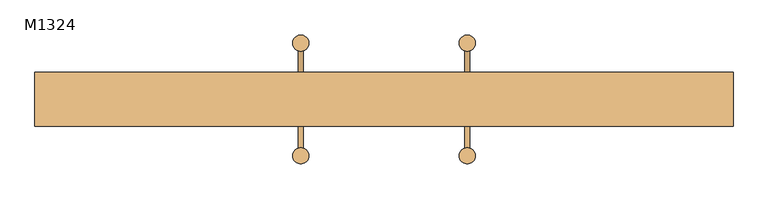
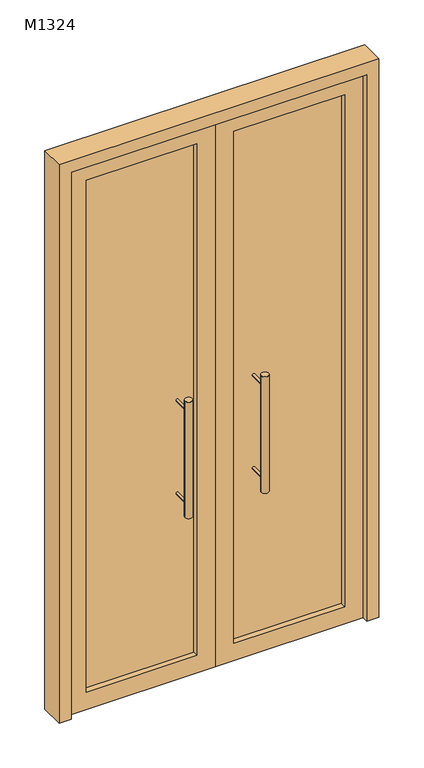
"""IFC4 building model written with IfcOpenShell, lengths in millimetres: door geometry, 双面嵌板玻璃门 : M1324."""

from ifc_helpers import new_model, si_unit, point, frame, frame_2d, origin, place, context, project, spatial, polyline, circle_curve, trimmed, segment, composite_curve, outline, extrude, source, transform, mapped, element, save


def m1324_f99653ee(model_context):
    return source(origin(), model_context, "Body", "SweptSolid", [
        extrude(outline(composite_curve([segment(trimmed(circle_curve(frame_2d((155.0, 105.0)), 15.0), [point((140.0, 105.0))], [point((170.0, 105.0))], False, "CARTESIAN"), True, "CONTINUOUS"), segment(trimmed(circle_curve(frame_2d((155.0, 105.0)), 15.0), [point((170.0, 105.0))], [point((140.0, 105.0))], False, "CARTESIAN"), True, "CONTINUOUS")], self_intersect=False)), frame((0.0, 0.0, 750.0), z_axis=(0.0, 0.0, 1.0), x_axis=(1.0, 0.0, 0.0)), (0.0, 0.0, 1.0), 500.0),
        extrude(outline(composite_curve([segment(trimmed(circle_curve(frame_2d((1200.0, 155.0)), 5.0), [point((1200.0, 150.0))], [point((1200.0, 160.0))], False, "CARTESIAN"), True, "CONTINUOUS"), segment(trimmed(circle_curve(frame_2d((1200.0, 155.0)), 5.0), [point((1200.0, 160.0))], [point((1200.0, 150.0))], False, "CARTESIAN"), True, "CONTINUOUS")], self_intersect=False)), frame((0.0, 25.0, 0.0), z_axis=(0.0, 1.0, 0.0), x_axis=(0.0, 0.0, 1.0)), (0.0, 0.0, 1.0), 80.0),
        extrude(outline(composite_curve([segment(trimmed(circle_curve(frame_2d((800.0, 155.0)), 5.0), [point((800.0, 150.0))], [point((800.0, 160.0))], False, "CARTESIAN"), True, "CONTINUOUS"), segment(trimmed(circle_curve(frame_2d((800.0, 155.0)), 5.0), [point((800.0, 160.0))], [point((800.0, 150.0))], False, "CARTESIAN"), True, "CONTINUOUS")], self_intersect=False)), frame((0.0, 25.0, 0.0), z_axis=(0.0, 1.0, 0.0), x_axis=(0.0, 0.0, 1.0)), (0.0, 0.0, 1.0), 80.0),
        extrude(outline(composite_curve([segment(trimmed(circle_curve(frame_2d((1200.0, 155.0)), 5.0), [point((1200.0, 150.0))], [point((1200.0, 160.0))], False, "CARTESIAN"), True, "CONTINUOUS"), segment(trimmed(circle_curve(frame_2d((1200.0, 155.0)), 5.0), [point((1200.0, 160.0))], [point((1200.0, 150.0))], False, "CARTESIAN"), True, "CONTINUOUS")], self_intersect=False)), frame((0.0, -105.0, 0.0), z_axis=(0.0, 1.0, 0.0), x_axis=(0.0, 0.0, 1.0)), (0.0, 0.0, 1.0), 80.0),
        extrude(outline(composite_curve([segment(trimmed(circle_curve(frame_2d((800.0, 155.0)), 5.0), [point((800.0, 150.0))], [point((800.0, 160.0))], False, "CARTESIAN"), True, "CONTINUOUS"), segment(trimmed(circle_curve(frame_2d((800.0, 155.0)), 5.0), [point((800.0, 160.0))], [point((800.0, 150.0))], False, "CARTESIAN"), True, "CONTINUOUS")], self_intersect=False)), frame((0.0, -105.0, 0.0), z_axis=(0.0, 1.0, 0.0), x_axis=(0.0, 0.0, 1.0)), (0.0, 0.0, 1.0), 80.0),
        extrude(outline(composite_curve([segment(trimmed(circle_curve(frame_2d((155.0, -105.0)), 15.0), [point((140.0, -105.0))], [point((170.0, -105.0))], False, "CARTESIAN"), True, "CONTINUOUS"), segment(trimmed(circle_curve(frame_2d((155.0, -105.0)), 15.0), [point((170.0, -105.0))], [point((140.0, -105.0))], False, "CARTESIAN"), True, "CONTINUOUS")], self_intersect=False)), frame((0.0, 0.0, 750.0), z_axis=(0.0, 0.0, 1.0), x_axis=(1.0, 0.0, 0.0)), (0.0, 0.0, 1.0), 500.0),
        extrude(outline(composite_curve([segment(trimmed(circle_curve(frame_2d((-155.0, 105.0)), 15.0), [point((-170.0, 105.0))], [point((-140.0, 105.0))], False, "CARTESIAN"), True, "CONTINUOUS"), segment(trimmed(circle_curve(frame_2d((-155.0, 105.0)), 15.0), [point((-140.0, 105.0))], [point((-170.0, 105.0))], False, "CARTESIAN"), True, "CONTINUOUS")], self_intersect=False)), frame((0.0, 0.0, 750.0), z_axis=(0.0, 0.0, 1.0), x_axis=(1.0, 0.0, 0.0)), (0.0, 0.0, 1.0), 500.0),
        extrude(outline(composite_curve([segment(trimmed(circle_curve(frame_2d((1200.0, -155.0)), 5.0), [point((1200.0, -160.0))], [point((1200.0, -150.0))], False, "CARTESIAN"), True, "CONTINUOUS"), segment(trimmed(circle_curve(frame_2d((1200.0, -155.0)), 5.0), [point((1200.0, -150.0))], [point((1200.0, -160.0))], False, "CARTESIAN"), True, "CONTINUOUS")], self_intersect=False)), frame((0.0, 25.0, 0.0), z_axis=(0.0, 1.0, 0.0), x_axis=(0.0, 0.0, 1.0)), (0.0, 0.0, 1.0), 80.0),
        extrude(outline(composite_curve([segment(trimmed(circle_curve(frame_2d((800.0, -155.0)), 5.0), [point((800.0, -160.0))], [point((800.0, -150.0))], False, "CARTESIAN"), True, "CONTINUOUS"), segment(trimmed(circle_curve(frame_2d((800.0, -155.0)), 5.0), [point((800.0, -150.0))], [point((800.0, -160.0))], False, "CARTESIAN"), True, "CONTINUOUS")], self_intersect=False)), frame((0.0, 25.0, 0.0), z_axis=(0.0, 1.0, 0.0), x_axis=(0.0, 0.0, 1.0)), (0.0, 0.0, 1.0), 80.0),
        extrude(outline(composite_curve([segment(trimmed(circle_curve(frame_2d((1200.0, -155.0)), 5.0), [point((1200.0, -160.0))], [point((1200.0, -150.0))], False, "CARTESIAN"), True, "CONTINUOUS"), segment(trimmed(circle_curve(frame_2d((1200.0, -155.0)), 5.0), [point((1200.0, -150.0))], [point((1200.0, -160.0))], False, "CARTESIAN"), True, "CONTINUOUS")], self_intersect=False)), frame((0.0, -105.0, 0.0), z_axis=(0.0, 1.0, 0.0), x_axis=(0.0, 0.0, 1.0)), (0.0, 0.0, 1.0), 80.0),
        extrude(outline(composite_curve([segment(trimmed(circle_curve(frame_2d((800.0, -155.0)), 5.0), [point((800.0, -160.0))], [point((800.0, -150.0))], False, "CARTESIAN"), True, "CONTINUOUS"), segment(trimmed(circle_curve(frame_2d((800.0, -155.0)), 5.0), [point((800.0, -150.0))], [point((800.0, -160.0))], False, "CARTESIAN"), True, "CONTINUOUS")], self_intersect=False)), frame((0.0, -105.0, 0.0), z_axis=(0.0, 1.0, 0.0), x_axis=(0.0, 0.0, 1.0)), (0.0, 0.0, 1.0), 80.0),
        extrude(outline(composite_curve([segment(trimmed(circle_curve(frame_2d((-155.0, -105.0)), 15.0), [point((-170.0, -105.0))], [point((-140.0, -105.0))], False, "CARTESIAN"), True, "CONTINUOUS"), segment(trimmed(circle_curve(frame_2d((-155.0, -105.0)), 15.0), [point((-140.0, -105.0))], [point((-170.0, -105.0))], False, "CARTESIAN"), True, "CONTINUOUS")], self_intersect=False)), frame((0.0, 0.0, 750.0), z_axis=(0.0, 0.0, 1.0), x_axis=(1.0, 0.0, 0.0)), (0.0, 0.0, 1.0), 500.0),
        extrude(outline(polyline([(75.0, 2.0), (525.0, 2.0), (525.0, -2.0), (75.0, -2.0), (75.0, 2.0)])), frame((0.0, 0.0, 75.0), z_axis=(0.0, 0.0, 1.0), x_axis=(1.0, 0.0, 0.0)), (0.0, 0.0, 1.0), 2200.0),
        extrude(outline(polyline([(-525.0, 2.0), (-75.0, 2.0), (-75.0, -2.0), (-525.0, -2.0), (-525.0, 2.0)])), frame((0.0, 0.0, 75.0), z_axis=(0.0, 0.0, 1.0), x_axis=(1.0, 0.0, 0.0)), (0.0, 0.0, 1.0), 2200.0),
        extrude(outline(polyline([(2350.0, 0.0), (2350.0, -600.0), (0.0, -600.0), (0.0, 0.0), (2350.0, 0.0)]), holes=[polyline([(2275.0, -525.0), (2275.0, -75.0), (75.0, -75.0), (75.0, -525.0), (2275.0, -525.0)])]), frame((0.0, -25.0, 0.0), z_axis=(0.0, 1.0, 0.0), x_axis=(0.0, 0.0, 1.0)), (0.0, 0.0, 1.0), 50.0),
        extrude(outline(polyline([(2350.0, 0.0), (0.0, 0.0), (0.0, 600.0), (2350.0, 600.0), (2350.0, 0.0)]), holes=[polyline([(2275.0, 525.0), (75.0, 525.0), (75.0, 75.0), (2275.0, 75.0), (2275.0, 525.0)])]), frame((0.0, -25.0, 0.0), z_axis=(0.0, 1.0, 0.0), x_axis=(0.0, 0.0, 1.0)), (0.0, 0.0, 1.0), 50.0),
        extrude(outline(polyline([(2400.0, 650.0), (2400.0, -650.0), (0.0, -650.0), (0.0, -600.0), (2350.0, -600.0), (2350.0, 600.0), (0.0, 600.0), (0.0, 650.0), (2400.0, 650.0)])), frame((0.0, -50.0, 0.0), z_axis=(0.0, 1.0, 0.0), x_axis=(0.0, 0.0, 1.0)), (0.0, 0.0, 1.0), 100.0),
    ])


if __name__ == "__main__":
    model = new_model("IFC4")
    model_context = context("Model", 3, world=origin())
    ifc_project = project(units=[si_unit("LENGTHUNIT", "METRE", prefix="MILLI")], contexts=[model_context])
    site = spatial("IfcSite", under=ifc_project)
    building = spatial("IfcBuilding", under=site)
    placement = place(None, origin())
    m1324_shape = m1324_f99653ee(model_context)
    element("IfcDoor", 1, ObjectType="双面嵌板玻璃门 : M1324", at=placement, inside=building, context=model_context, shape_type="MappedRepresentation", body=[
        mapped(m1324_shape, transform((0.0, 0.0, 0.0), x_axis=(1.0, 0.0, 0.0), y_axis=(0.0, 1.0, 0.0), z_axis=(0.0, 0.0, 1.0))),
    ])
    save(model, "model.ifc")
